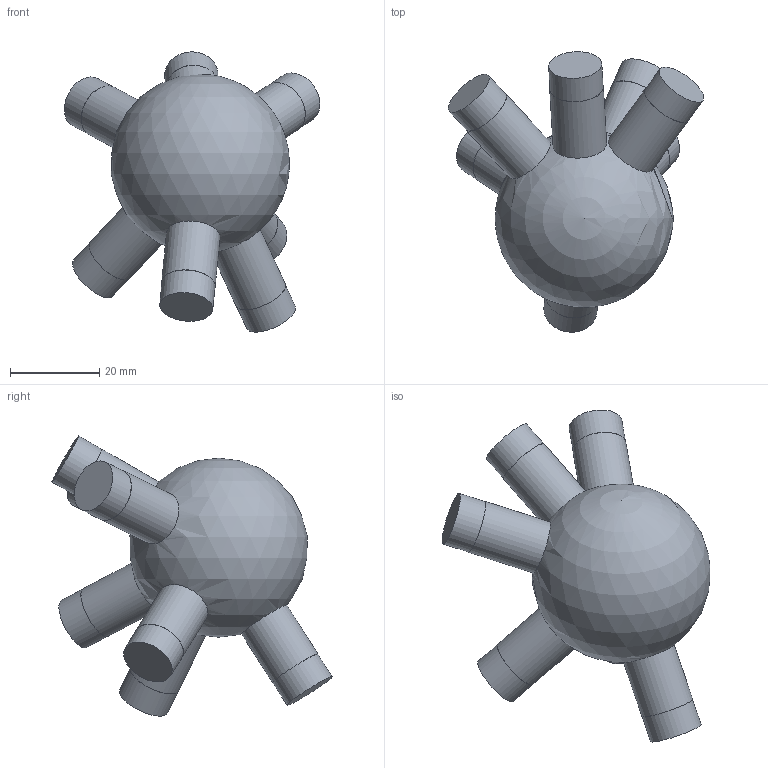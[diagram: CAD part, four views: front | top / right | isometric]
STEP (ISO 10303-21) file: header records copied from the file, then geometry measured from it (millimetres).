
FILE_DESCRIPTION(('Open CASCADE Model'),'2;1');
FILE_NAME('Open CASCADE Shape Model','2026-10-21T12:47:57',('Author'),( 'Open CASCADE'),'Open CASCADE STEP processor 7.9','Open CASCADE 7.9' ,'Unknown');
FILE_SCHEMA(('AUTOMOTIVE_DESIGN { 1 0 10303 214 1 1 1 1 }'));
Length unit declared in the file: millimetre
Products named in the file (1): Open CASCADE STEP translator 7.9 16
Bounding box: 57.1 x 62.62 x 62.65 mm (x, y, z)
Volume: 49262.3 mm3; surface area: 10391.9 mm2
Topology: 1 solids, 1 shells, 29 faces, 49 edges, 33 vertices
Faces by surface type: cylinder 14, plane 14, sphere 1
Full cylindrical faces by diameter (mm): 11.9 x7, 12 x7
Entity records: 1881 total; most frequent: CARTESIAN_POINT 815, DIRECTION 217, ORIENTED_EDGE 92, PCURVE 92, DEFINITIONAL_REPRESENTATION 92, LINE 72, VECTOR 72, AXIS2_PLACEMENT_3D 62
